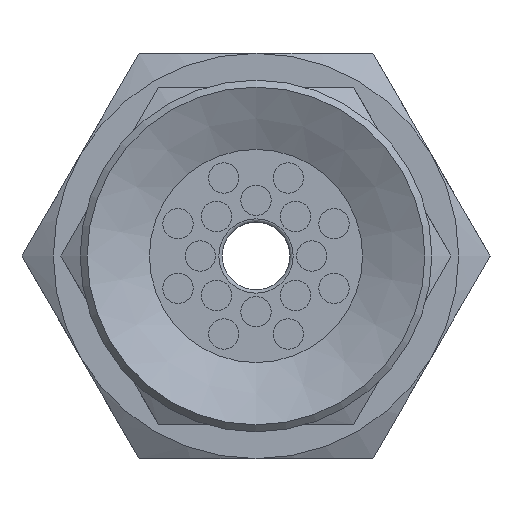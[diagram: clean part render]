
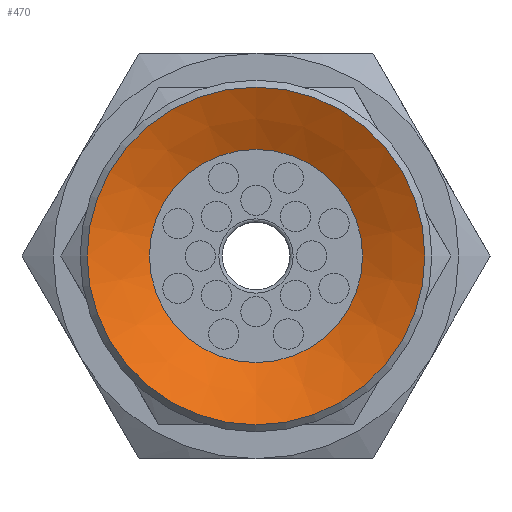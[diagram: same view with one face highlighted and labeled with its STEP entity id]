
A CAD part, front view. The second image highlights one B-rep face of the part: STEP entity #470.
In plain terms, the highlighted conical face has half-angle 64 degrees and reference radius 5 mm.
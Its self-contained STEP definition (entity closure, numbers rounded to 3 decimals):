
#470=ADVANCED_FACE('',(#716,#717),#718,.F.);
#716=FACE_BOUND('',#1043,.T.);
#717=FACE_OUTER_BOUND('',#1044,.T.);
#718=CONICAL_SURFACE('',#1045,5.0,1.117);
#1043=EDGE_LOOP('',(#1665));
#1044=EDGE_LOOP('',(#1666));
#1045=AXIS2_PLACEMENT_3D('',#1667,#1668,#1669);
#1665=ORIENTED_EDGE('',*,*,#2038,.T.);
#1666=ORIENTED_EDGE('',*,*,#2039,.F.);
#1667=CARTESIAN_POINT('',(0.0,0.,0.));
#1668=DIRECTION('',(0.0,0.,-1.0));
#1669=DIRECTION('',(0.0,1.0,0.));
#2038=EDGE_CURVE('',#2319,#2319,#2320,.T.);
#2039=EDGE_CURVE('',#2321,#2321,#2322,.T.);
#2319=VERTEX_POINT('',#2943);
#2320=CIRCLE('',#2944,3.155);
#2321=VERTEX_POINT('',#2945);
#2322=CIRCLE('',#2946,5.0);
#2943=CARTESIAN_POINT('',(0.0,-3.155,0.9));
#2944=AXIS2_PLACEMENT_3D('',#3253,#3254,#3255);
#2945=CARTESIAN_POINT('',(0.0,-5.0,0.));
#2946=AXIS2_PLACEMENT_3D('',#3256,#3257,#3258);
#3253=CARTESIAN_POINT('',(0.0,0.,0.9));
#3254=DIRECTION('',(0.0,0.,1.0));
#3255=DIRECTION('',(0.0,-1.0,0.));
#3256=CARTESIAN_POINT('',(0.0,0.,0.));
#3257=DIRECTION('',(0.0,0.,1.0));
#3258=DIRECTION('',(0.0,-1.0,0.));
